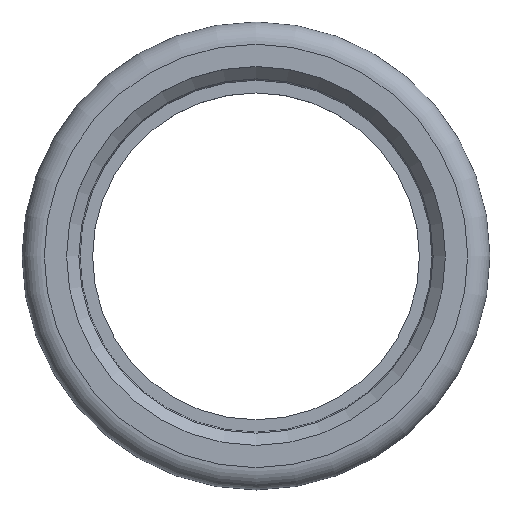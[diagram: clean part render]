
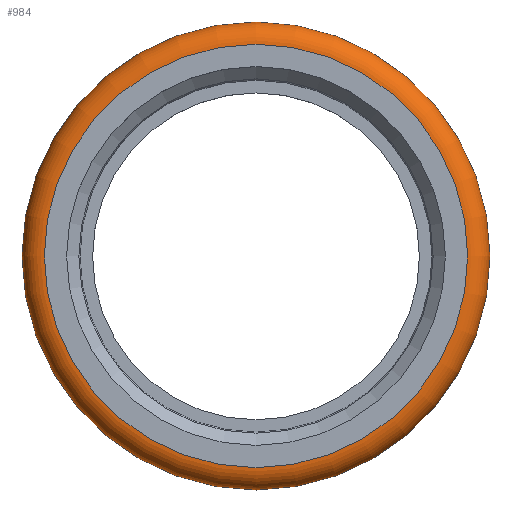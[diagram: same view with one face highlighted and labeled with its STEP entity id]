
A CAD part, top view. The second image highlights one B-rep face of the part: STEP entity #984.
In plain terms, the highlighted toroidal (fillet/blend) face has major radius 28.5 mm and minor radius 3 mm.
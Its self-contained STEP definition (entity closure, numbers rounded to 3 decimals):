
#144=FACE_BOUND('',#353,.T.);
#213=FACE_OUTER_BOUND('',#352,.T.);
#352=EDGE_LOOP('',(#767));
#353=EDGE_LOOP('',(#768));
#462=CIRCLE('',#1128,28.5);
#463=CIRCLE('',#1130,31.5);
#545=VERTEX_POINT('',#1687);
#546=VERTEX_POINT('',#1690);
#628=EDGE_CURVE('',#545,#545,#462,.T.);
#629=EDGE_CURVE('',#546,#546,#463,.T.);
#767=ORIENTED_EDGE('',*,*,#628,.T.);
#768=ORIENTED_EDGE('',*,*,#629,.F.);
#833=TOROIDAL_SURFACE('',#1129,28.5,3.);
#984=ADVANCED_FACE('',(#213,#144),#833,.T.);
#1128=AXIS2_PLACEMENT_3D('',#1688,#1411,#1412);
#1129=AXIS2_PLACEMENT_3D('',#1689,#1413,#1414);
#1130=AXIS2_PLACEMENT_3D('',#1691,#1415,#1416);
#1411=DIRECTION('center_axis',(0.,0.,-1.));
#1412=DIRECTION('ref_axis',(1.,0.,0.));
#1413=DIRECTION('center_axis',(0.,0.,-1.));
#1414=DIRECTION('ref_axis',(-1.,0.,0.));
#1415=DIRECTION('center_axis',(0.,0.,-1.));
#1416=DIRECTION('ref_axis',(1.,0.,0.));
#1687=CARTESIAN_POINT('',(0.,28.5,34.5));
#1688=CARTESIAN_POINT('Origin',(0.,0.,34.5));
#1689=CARTESIAN_POINT('Origin',(0.,0.,31.5));
#1690=CARTESIAN_POINT('',(0.,31.5,31.5));
#1691=CARTESIAN_POINT('Origin',(0.,0.,31.5));
